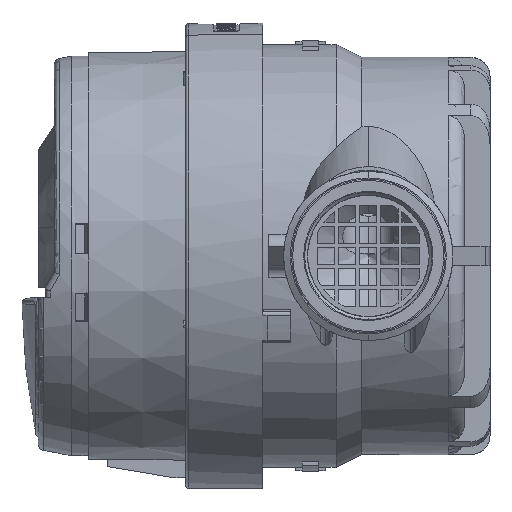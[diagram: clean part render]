
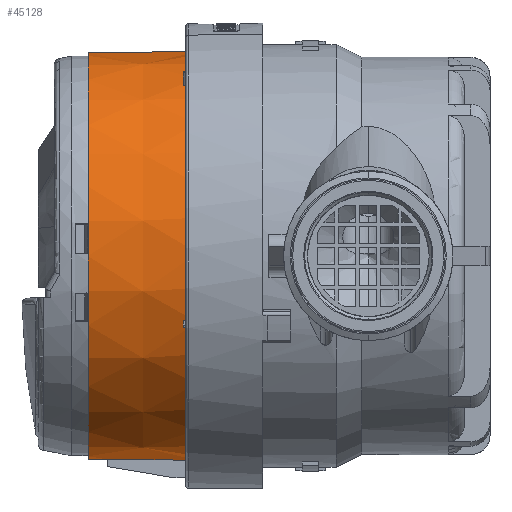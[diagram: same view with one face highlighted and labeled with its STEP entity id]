
A CAD part, left-side view. The second image highlights one B-rep face of the part: STEP entity #45128.
In plain terms, the highlighted conical face has half-angle 0.504 degrees and reference radius 31.9 mm.
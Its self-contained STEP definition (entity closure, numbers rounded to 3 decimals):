
#558 = CIRCLE ( 'NONE', #2404, 31.9 ) ;
#946 = CARTESIAN_POINT ( 'NONE',  ( 0., 45.674, 0. ) ) ;
#1135 = EDGE_LOOP ( 'NONE', ( #34644, #9342, #39443, #3864, #1747, #47698 ) ) ;
#1747 = ORIENTED_EDGE ( 'NONE', *, *, #7737, .F. ) ;
#2404 = AXIS2_PLACEMENT_3D ( 'NONE', #946, #9608, #12659 ) ;
#2885 = B_SPLINE_CURVE_WITH_KNOTS ( 'NONE', 3,
 ( #43397, #32515, #14027, #28792, #40205, #6015, #32283, #39727, #36497, #29042 ),
 .UNSPECIFIED., .F., .F.,
 ( 4, 3, 3, 4 ),
 ( -0.007, 0., 0.007, 0.007 ),
 .UNSPECIFIED. ) ;
#3864 = ORIENTED_EDGE ( 'NONE', *, *, #40712, .T. ) ;
#4795 = FACE_OUTER_BOUND ( 'NONE', #1135, .T. ) ;
#5536 = LINE ( 'NONE', #14648, #15524 ) ;
#5873 = EDGE_CURVE ( 'NONE', #12128, #9272, #5536, .T. ) ;
#6015 = CARTESIAN_POINT ( 'NONE',  ( -1., 48.487, -31.86 ) ) ;
#7634 = CIRCLE ( 'NONE', #28168, 31.777 ) ;
#7737 = EDGE_CURVE ( 'NONE', #9272, #42559, #558, .T. ) ;
#8319 = CARTESIAN_POINT ( 'NONE',  ( 0., 59.7, 0. ) ) ;
#9272 = VERTEX_POINT ( 'NONE', #36668 ) ;
#9325 = VERTEX_POINT ( 'NONE', #32947 ) ;
#9342 = ORIENTED_EDGE ( 'NONE', *, *, #48781, .T. ) ;
#9608 = DIRECTION ( 'NONE',  ( 0., -1., 0. ) ) ;
#11185 = DIRECTION ( 'NONE',  ( 0., -1., -0.009 ) ) ;
#12128 = VERTEX_POINT ( 'NONE', #48230 ) ;
#12659 = DIRECTION ( 'NONE',  ( 0., 0., 1. ) ) ;
#13912 = VERTEX_POINT ( 'NONE', #34342 ) ;
#14027 = CARTESIAN_POINT ( 'NONE',  ( -1., 55.335, -31.799 ) ) ;
#14648 = CARTESIAN_POINT ( 'NONE',  ( 0., 45.674, 31.9 ) ) ;
#15524 = VECTOR ( 'NONE', #43170, 1000. ) ;
#15994 = CARTESIAN_POINT ( 'NONE',  ( 0., 45.674, 0. ) ) ;
#17783 = CONICAL_SURFACE ( 'NONE', #40662, 31.9, 0.009 ) ;
#20406 = DIRECTION ( 'NONE',  ( 0., 0., 1. ) ) ;
#22545 = LINE ( 'NONE', #48538, #26793 ) ;
#25044 = CARTESIAN_POINT ( 'NONE',  ( 0., 62.75, -31.75 ) ) ;
#25188 = AXIS2_PLACEMENT_3D ( 'NONE', #48023, #44526, #25693 ) ;
#25693 = DIRECTION ( 'NONE',  ( 0., 0., 1. ) ) ;
#26793 = VECTOR ( 'NONE', #11185, 1000. ) ;
#27345 = EDGE_CURVE ( 'NONE', #12128, #40677, #46607, .T. ) ;
#28168 = AXIS2_PLACEMENT_3D ( 'NONE', #8319, #41524, #34841 ) ;
#28792 = CARTESIAN_POINT ( 'NONE',  ( -1., 53.153, -31.819 ) ) ;
#29042 = CARTESIAN_POINT ( 'NONE',  ( -1., 45.674, -31.884 ) ) ;
#30696 = CARTESIAN_POINT ( 'NONE',  ( -1., 45.674, -31.884 ) ) ;
#32283 = CARTESIAN_POINT ( 'NONE',  ( -1., 46.154, -31.88 ) ) ;
#32515 = CARTESIAN_POINT ( 'NONE',  ( -1., 57.518, -31.78 ) ) ;
#32947 = CARTESIAN_POINT ( 'NONE',  ( -1., 59.7, -31.761 ) ) ;
#33344 = EDGE_CURVE ( 'NONE', #9325, #13912, #7634, .T. ) ;
#34342 = CARTESIAN_POINT ( 'NONE',  ( 0., 59.7, -31.777 ) ) ;
#34644 = ORIENTED_EDGE ( 'NONE', *, *, #27345, .T. ) ;
#34841 = DIRECTION ( 'NONE',  ( 0., 0., -1. ) ) ;
#36497 = CARTESIAN_POINT ( 'NONE',  ( -1., 45.834, -31.883 ) ) ;
#36668 = CARTESIAN_POINT ( 'NONE',  ( 0., 45.674, 31.9 ) ) ;
#39443 = ORIENTED_EDGE ( 'NONE', *, *, #33344, .F. ) ;
#39727 = CARTESIAN_POINT ( 'NONE',  ( -1., 45.994, -31.882 ) ) ;
#40205 = CARTESIAN_POINT ( 'NONE',  ( -1., 50.82, -31.839 ) ) ;
#40662 = AXIS2_PLACEMENT_3D ( 'NONE', #15994, #43386, #20406 ) ;
#40677 = VERTEX_POINT ( 'NONE', #25044 ) ;
#40712 = EDGE_CURVE ( 'NONE', #9325, #42559, #2885, .T. ) ;
#41524 = DIRECTION ( 'NONE',  ( 0., -1., 0. ) ) ;
#42559 = VERTEX_POINT ( 'NONE', #30696 ) ;
#43170 = DIRECTION ( 'NONE',  ( 0., -1., 0.009 ) ) ;
#43386 = DIRECTION ( 'NONE',  ( 0., -1., 0. ) ) ;
#43397 = CARTESIAN_POINT ( 'NONE',  ( -1., 59.7, -31.761 ) ) ;
#44526 = DIRECTION ( 'NONE',  ( 0., -1., 0. ) ) ;
#45128 = ADVANCED_FACE ( 'NONE', ( #4795 ), #17783, .T. ) ;
#46607 = CIRCLE ( 'NONE', #25188, 31.75 ) ;
#47698 = ORIENTED_EDGE ( 'NONE', *, *, #5873, .F. ) ;
#48023 = CARTESIAN_POINT ( 'NONE',  ( 0., 62.75, 0. ) ) ;
#48230 = CARTESIAN_POINT ( 'NONE',  ( 0., 62.75, 31.75 ) ) ;
#48538 = CARTESIAN_POINT ( 'NONE',  ( 0., 45.674, -31.9 ) ) ;
#48781 = EDGE_CURVE ( 'NONE', #40677, #13912, #22545, .T. ) ;
